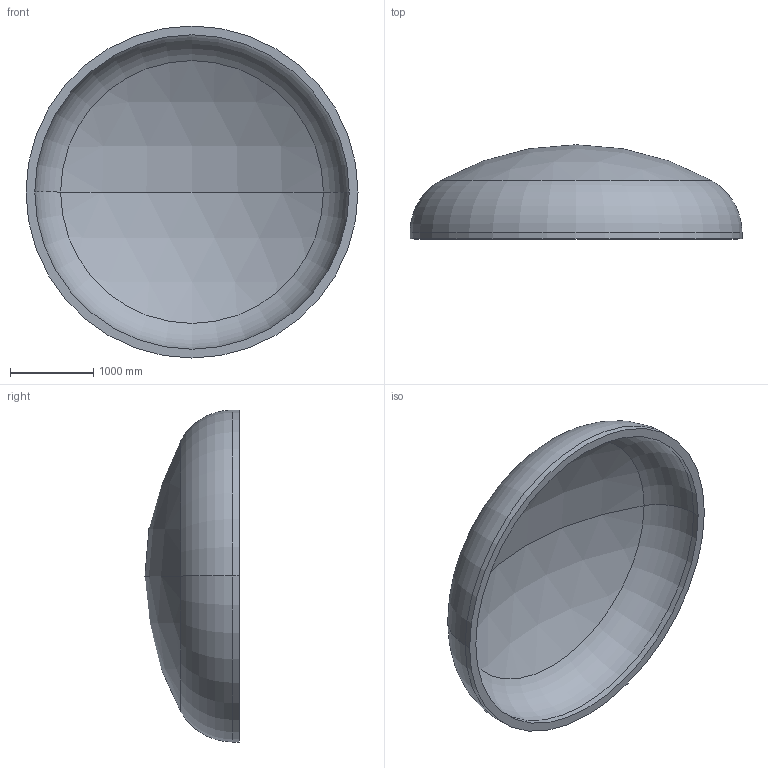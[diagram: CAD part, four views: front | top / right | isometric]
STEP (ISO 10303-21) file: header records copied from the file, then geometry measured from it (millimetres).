
FILE_DESCRIPTION (( 'STEP AP203' ), '1' );
FILE_NAME ('DIN 28013 Korbbogenform_-_Boden DIN 28013 - 4000 x 75 - I - s=106.step', '2016-07-01T22:50:48', ( '' ), ( '' ), 'SwSTEP 2.0', 'SolidWorks 2013', '' );
FILE_SCHEMA (( 'CONFIG_CONTROL_DESIGN' ));
Length unit declared in the file: millimetre
Products named in the file (1): DIN 28013 Korbbogenform_-_Boden DIN 28013 - 4000 x 75 - I - s=106
Bounding box: 4000 x 1134.58 x 4000 mm (x, y, z)
Volume: 1878577517 mm3; surface area: 36765115.4 mm2
Topology: 1 solids, 1 shells, 13 faces, 24 edges, 14 vertices
Faces by surface type: torus 4, cylinder 4, sphere 4, plane 1
Entity records: 407 total; most frequent: DIRECTION 72, CARTESIAN_POINT 52, ORIENTED_EDGE 48, AXIS2_PLACEMENT_3D 34, EDGE_CURVE 24, CIRCLE 20, VERTEX_POINT 14, EDGE_LOOP 14
